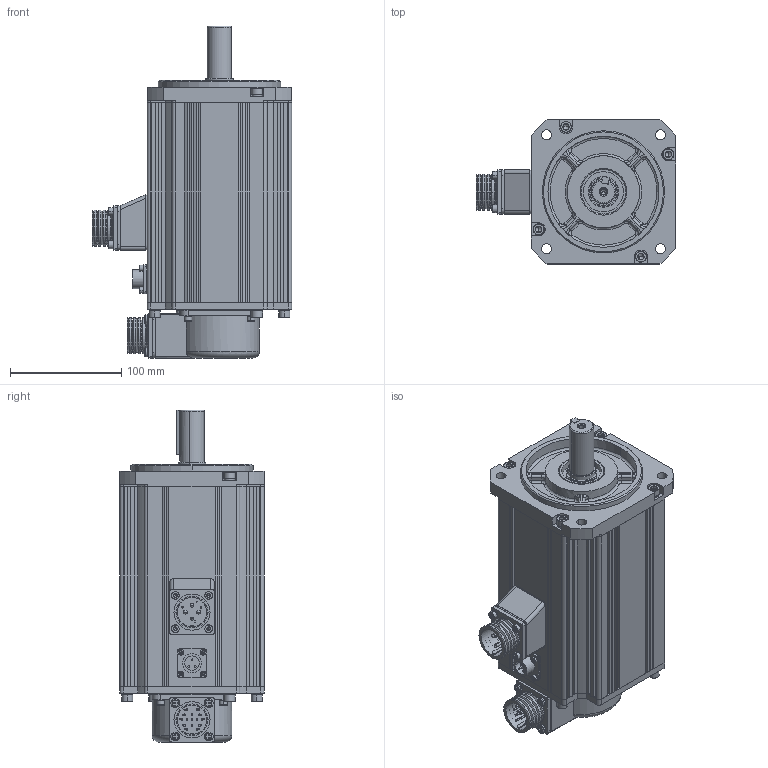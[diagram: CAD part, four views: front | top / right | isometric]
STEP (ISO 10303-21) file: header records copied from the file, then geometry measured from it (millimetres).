
FILE_DESCRIPTION((''),'2;1');
FILE_NAME('SV-MH13-1R3B-X-XA4-1000_ASM_ASM','2019-12-11T',('JWDQ'),(''),'CREO PARAMETRIC BY PTC INC, 2014050','CREO PARAMETRIC BY PTC INC, 2014050','');
FILE_SCHEMA(('CONFIG_CONTROL_DESIGN'));
Products named in the file (35): SV130BZ-ZHOU_1_1_AF0; SV130BZ-ZZ-1_ASM_1_1_AF0_ASM; SV130BZ-ZZ-2_ASM_1_1_AF0_ASM; 80100020-1_1_1; SV130BZ-HG_ASM_1_1_ASM; SV130BZ-ZHUANZ_ASM_1_1_AF0_ASM; SV130BZ-K_1_1; 513704090100_1_1_2_3; 046770000100_1_1_2_3; 80750004_1_1_2_3; 78400020_1_1_2_3; GBT93-4_1_1_2_3; GBT7R1-4X35_1_1_2_3; S-YD28-4_ASM_1_1_2_3_ASM; SV130BZ-DZ-1_ASM_1_1_ASM; SV130BZ-DINGZ_ASM_1_1_ASM; 80100007_1_1_2_3; 730030000200_1_1_2_3; SV130-QG_ASM_1_1_2_3_ASM; 82340004_1_1_2_3; 046770000100_1; 513715090100_1_1_2_3; 78400019_1_1_2_3; GBT93-4_1; GBT70R1-4X12_1_1_2_3; M4X16_1_1_2_3; TS5214_ASM_1_1_2_3_ASM; GBT93-6_1_1_2_3; GBT7R1-M6X16_1_1_2_3; GBT1095-6X6-41_1_1; XS16-3P_1_1; GB93-3_1_1; GBT7R1-3X8_1_1; SV130-BZ_ASM_2_1_AF0_ASM; SV-MH13-1R3B-X-XA4-1000_ASM_ASM
Assembly tree (73 placements, depth 6):
  SV-MH13-1R3B-X-XA4-1000_ASM_ASM
    SV130-BZ_ASM_2_1_AF0_ASM
      SV130BZ-ZHUANZ_ASM_1_1_AF0_ASM
        SV130BZ-ZZ-2_ASM_1_1_AF0_ASM
          SV130BZ-ZZ-1_ASM_1_1_AF0_ASM
            SV130BZ-ZHOU_1_1_AF0
        SV130BZ-HG_ASM_1_1_ASM
          80100020-1_1_1
      SV130BZ-DINGZ_ASM_1_1_ASM
        SV130BZ-DZ-1_ASM_1_1_ASM
          SV130BZ-K_1_1
          S-YD28-4_ASM_1_1_2_3_ASM
            513704090100_1_1_2_3
            046770000100_1_1_2_3
            80750004_1_1_2_3
            78400020_1_1_2_3
            GBT93-4_1_1_2_3  x4
            GBT7R1-4X35_1_1_2_3  x4
      SV130-QG_ASM_1_1_2_3_ASM
        80100007_1_1_2_3
        730030000200_1_1_2_3
      TS5214_ASM_1_1_2_3_ASM
        82340004_1_1_2_3
        046770000100_1
        513715090100_1_1_2_3
        78400019_1_1_2_3
        GBT93-4_1  x8
        GBT70R1-4X12_1_1_2_3  x4
        M4X16_1_1_2_3  x4
      GBT93-6_1_1_2_3  x8
      GBT7R1-M6X16_1_1_2_3  x8
      GBT1095-6X6-41_1_1
      XS16-3P_1_1
      GB93-3_1_1  x4
      GBT7R1-3X8_1_1  x4
Bounding box: 179.5 x 130 x 299 mm (x, y, z)
Volume: 1124738.2 mm3; surface area: 452029.6 mm2
Topology: 63 solids, 84 shells, 3433 faces, 8869 edges, 5730 vertices
Faces by surface type: plane 1988, cylinder 858, cone 430, torus 100, bspline 31, sphere 26
Entity records: 104626 total; most frequent: CARTESIAN_POINT 17082, DIRECTION 14710, ORIENTED_EDGE 14306, EDGE_CURVE 7163, AXIS2_PLACEMENT_3D 4935, VECTOR 4840, LINE 4840, VERTEX_POINT 4747
